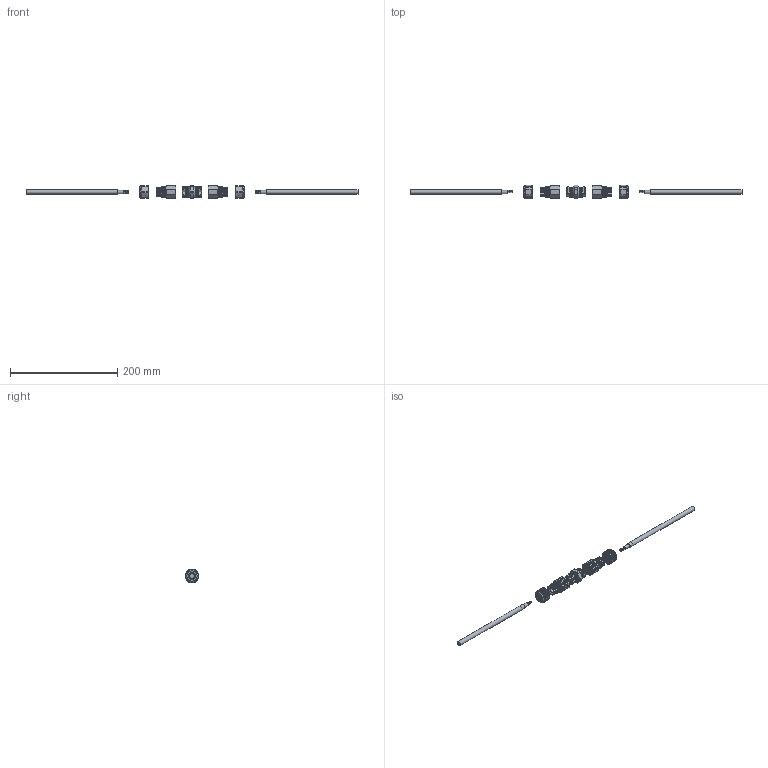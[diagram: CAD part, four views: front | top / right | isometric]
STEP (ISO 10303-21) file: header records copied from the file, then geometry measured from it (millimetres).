
FILE_DESCRIPTION(/* description */ (''),/* implementation_level */ '2;1');
FILE_NAME(/* name */ 'E:/3D/animacje produktów/Untitled v19.step',/* time_stamp */ '2021-04-20T10:10:40+02:00',/* author */ (''),/* organization */ (''),/* preprocessor_version */ 'ST-DEVELOPER v18.1',/* originating_system */ 'Autodesk Translation Framework v10.6.0.1341',/* authorisation */ '');
FILE_SCHEMA (('AUTOMOTIVE_DESIGN { 1 0 10303 214 3 1 1 }'));
Length unit declared in the file: millimetre
Products named in the file (1): Untitled
Bounding box: 619.8 x 25.98 x 25 mm (x, y, z)
Volume: 44016.6 mm3; surface area: 40357.2 mm2
Topology: 17 solids, 17 shells, 976 faces, 2664 edges, 1764 vertices
Faces by surface type: plane 576, cylinder 312, bspline 78, cone 6, torus 4
Full cylindrical faces by diameter (mm): 0.449 x16, 0.904 x6, 1.66 x6, 2.23 x2, 2.517 x2, 5.919 x2, 6.28 x2, 8.544 x2, 9 x2, 14 x2, 18.137 x10, 18.5 x2, 19.85 x10, 20 x2, 20.526 x38, 22 x2, 22.203 x34, 23 x2, 25 x2
Entity records: 47546 total; most frequent: CARTESIAN_POINT 23655, ORIENTED_EDGE 5328, DIRECTION 4290, EDGE_CURVE 2664, VERTEX_POINT 1764, LINE 1632, VECTOR 1632, AXIS2_PLACEMENT_3D 1329
